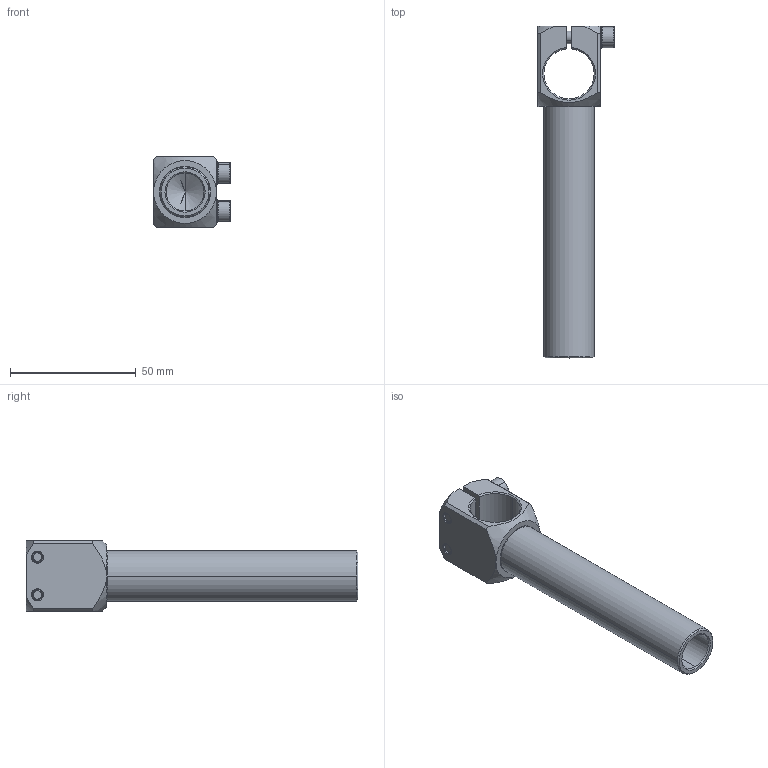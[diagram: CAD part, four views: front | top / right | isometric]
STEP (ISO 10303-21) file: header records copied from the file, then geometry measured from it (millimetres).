
FILE_DESCRIPTION (( 'STEP AP214' ), '1' );
FILE_NAME ('7.Y01000.STEP', '2021-04-20T02:00:47', ( '微软用户' ), ( '微软中国' ), 'SwSTEP 2.0', 'SolidWorks 2018', '' );
FILE_SCHEMA (( 'AUTOMOTIVE_DESIGN' ));
Length unit declared in the file: millimetre
Products named in the file (4): PTS-M5; PTC-M5L25; 2.Y07383; 7.Y01000
Assembly tree (5 placements, depth 2):
  7.Y01000
    2.Y07383
    PTC-M5L25  x2
    PTS-M5  x2
Bounding box: 30.55 x 132 x 28 mm (x, y, z)
Volume: 28064.8 mm3; surface area: 18629.2 mm2
Topology: 5 solids, 5 shells, 501 faces, 1408 edges, 917 vertices
Faces by surface type: plane 426, cylinder 35, cone 34, torus 6
Entity records: 9296 total; most frequent: CARTESIAN_POINT 1704, DIRECTION 1602, ORIENTED_EDGE 1544, EDGE_CURVE 772, AXIS2_PLACEMENT_3D 561, VERTEX_POINT 501, VECTOR 480, LINE 480
